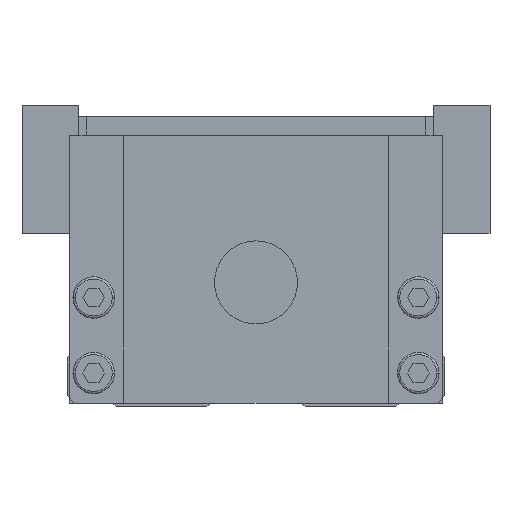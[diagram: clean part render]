
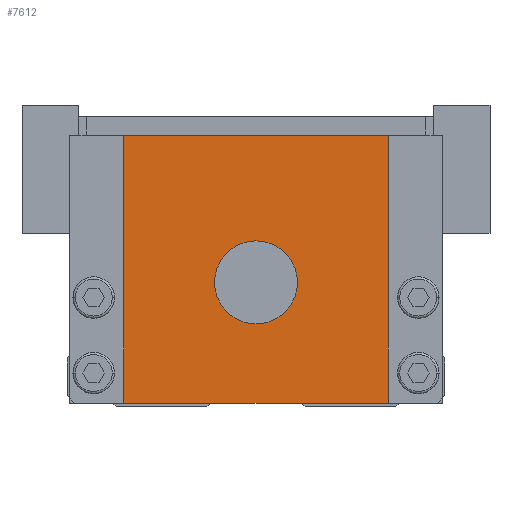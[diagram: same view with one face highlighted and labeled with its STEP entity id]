
A CAD part, front view. The second image highlights one B-rep face of the part: STEP entity #7612.
In plain terms, the highlighted planar face has unit normal (0, -1, 0).
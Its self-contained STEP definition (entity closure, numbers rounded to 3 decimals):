
#4896=EDGE_CURVE('',#10914,#9064,#13336,.T.);
#5886=EDGE_CURVE('',#6412,#6218,#14433,.T.);
#6050=EDGE_CURVE('',#6218,#6412,#14615,.T.);
#6218=VERTEX_POINT('',#14798);
#6412=VERTEX_POINT('',#15008);
#6444=VERTEX_POINT('',#15044);
#7612=ADVANCED_FACE('',(#16333,#16334),#16335,.F.);
#7836=EDGE_CURVE('',#9064,#6444,#16589,.T.);
#8916=EDGE_CURVE('',#9982,#10914,#17786,.T.);
#9064=VERTEX_POINT('',#17945);
#9904=EDGE_CURVE('',#9982,#6444,#18877,.T.);
#9982=VERTEX_POINT('',#18967);
#10914=VERTEX_POINT('',#20015);
#13336=LINE('',#22963,#22964);
#14433=CIRCLE('',#24565,5.5);
#14615=CIRCLE('',#24830,5.5);
#14798=CARTESIAN_POINT('',(5.5,0.0,16.5));
#15008=CARTESIAN_POINT('',(-5.5,0.0,16.5));
#15044=CARTESIAN_POINT('',(-17.5,0.0,0.5));
#16333=FACE_BOUND('',#27205,.T.);
#16334=FACE_OUTER_BOUND('',#27206,.T.);
#16335=PLANE('',#27207);
#16589=LINE('',#27562,#27563);
#17786=LINE('',#29231,#29232);
#17945=CARTESIAN_POINT('',(17.5,0.0,0.5));
#18877=LINE('',#30895,#30896);
#18967=CARTESIAN_POINT('',(-17.5,0.0,36.0));
#20015=CARTESIAN_POINT('',(17.5,0.0,36.0));
#22963=CARTESIAN_POINT('',(17.5,0.0,18.25));
#22964=VECTOR('',#35998,1.0);
#24565=AXIS2_PLACEMENT_3D('',#37196,#37197,#37198);
#24830=AXIS2_PLACEMENT_3D('',#37411,#37412,#37413);
#27205=EDGE_LOOP('',(#39288,#39289));
#27206=EDGE_LOOP('',(#39290,#39291,#39292,#39293));
#27207=AXIS2_PLACEMENT_3D('',#39294,#39295,#39296);
#27562=CARTESIAN_POINT('',(0.0,0.0,0.5));
#27563=VECTOR('',#39643,1.0);
#29231=CARTESIAN_POINT('',(0.0,0.0,36.0));
#29232=VECTOR('',#40964,1.0);
#30895=CARTESIAN_POINT('',(-17.5,0.0,18.25));
#30896=VECTOR('',#42172,1.0);
#35998=DIRECTION('',(0.0,0.0,-1.0));
#37196=CARTESIAN_POINT('',(0.0,0.0,16.5));
#37197=DIRECTION('',(-0.0,1.0,0.0));
#37198=DIRECTION('',(1.0,0.0,0.0));
#37411=CARTESIAN_POINT('',(0.0,0.0,16.5));
#37412=DIRECTION('',(-0.0,1.0,0.0));
#37413=DIRECTION('',(1.0,0.0,0.0));
#39288=ORIENTED_EDGE('',*,*,#6050,.T.);
#39289=ORIENTED_EDGE('',*,*,#5886,.T.);
#39290=ORIENTED_EDGE('',*,*,#9904,.T.);
#39291=ORIENTED_EDGE('',*,*,#7836,.F.);
#39292=ORIENTED_EDGE('',*,*,#4896,.F.);
#39293=ORIENTED_EDGE('',*,*,#8916,.F.);
#39294=CARTESIAN_POINT('',(0.0,0.0,18.25));
#39295=DIRECTION('',(0.0,1.0,0.0));
#39296=DIRECTION('',(0.0,0.0,1.0));
#39643=DIRECTION('',(-1.0,0.0,0.0));
#40964=DIRECTION('',(1.0,0.0,0.0));
#42172=DIRECTION('',(0.0,0.0,-1.0));
